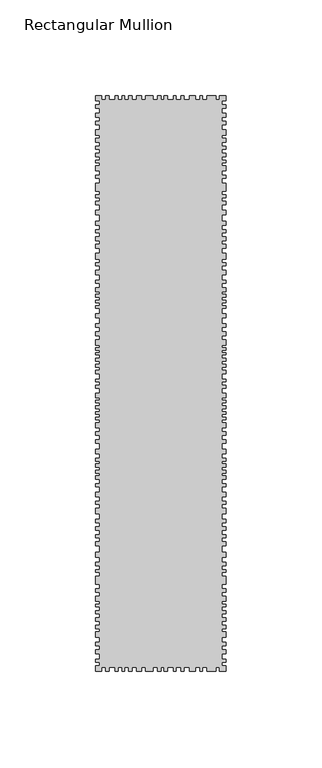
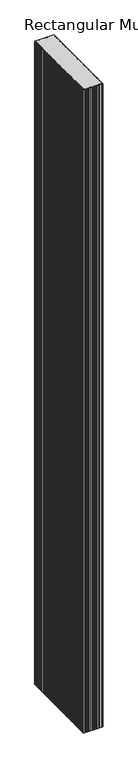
"""IFC4 building model written with IfcOpenShell, lengths in millimetres: member geometry, Rectangular Mullion : DucoSun Cubic Design louvre 300."""

from ifc_helpers import new_model, si_unit, frame, origin, place, context, project, spatial, polyline, outline, extrude, source, transform, mapped, element, save


def rectangular_mullion_a2c1e60b(model_context):
    return source(origin(), model_context, "Body", "SweptSolid", [
        extrude(outline(polyline([(34.0, 297.3782451), (32.0, 297.3782451), (32.0, 295.4241521), (34.0, 295.4241521), (34.0, 293.6532553), (32.0, 293.6532553), (32.0, 290.9460223), (34.0, 290.9460223), (34.0, 288.9105087), (32.0, 288.9105087), (32.0, 286.7121541), (34.0, 286.7121541), (34.0, 285.0023227), (32.0, 285.0023227), (32.0, 282.3561551), (34.0, 282.3561551), (34.0, 279.3843053), (32.0, 279.3843053), (32.0, 277.8917893), (34.0, 277.8917893), (34.0, 275.8425117), (32.0, 275.8425117), (32.0, 273.8680636), (34.0, 273.8680636), (34.0, 272.1582322), (32.0, 272.1582322), (32.0, 270.0820083), (34.0, 270.0820083), (34.0, 268.3111116), (32.0, 268.3111116), (32.0, 266.4995045), (34.0, 266.4995045), (34.0, 265.0713495), (32.0, 265.0713495), (32.0, 263.4577392), (34.0, 263.4577392), (34.0, 261.0328231), (32.0, 261.0328231), (32.0, 258.5725067), (34.0, 258.5725067), (34.0, 257.0325964), (32.0, 257.0325964), (32.0, 254.5014796), (34.0, 254.5014796), (34.0, 250.4127524), (32.0, 250.4127524), (32.0, 248.4126391), (34.0, 248.4126391), (34.0, 246.8373286), (32.0, 246.8373286), (32.0, 244.9965163), (34.0, 244.9965163), (34.0, 243.3504053), (32.0, 243.3504053), (32.0, 240.3767855), (34.0, 240.3767855), (34.0, 237.9545244), (32.0, 237.9545244), (32.0, 234.5552168), (34.0, 234.5552168), (34.0, 232.5197032), (32.0, 232.5197032), (32.0, 230.239928), (34.0, 230.239928), (34.0, 228.6929377), (32.0, 228.6929377), (32.0, 226.4335177), (34.0, 226.4335177), (34.0, 224.5608452), (32.0, 224.5608452), (32.0, 222.6271073), (34.0, 222.6271073), (34.0, 220.5508835), (32.0, 220.5508835), (32.0, 218.0064916), (34.0, 218.0064916), (34.0, 214.9328661), (32.0, 214.9328661), (32.0, 212.9177077), (34.0, 212.9177077), (34.0, 211.4114277), (32.0, 211.4114277), (32.0, 208.9688114), (34.0, 208.9688114), (34.0, 206.7118273), (32.0, 206.7118273), (32.0, 203.8852623), (34.0, 203.8852623), (34.0, 202.4316003), (32.0, 202.4316003), (32.0, 199.9011516), (34.0, 199.9011516), (34.0, 197.8552569), (32.0, 197.8552569), (32.0, 196.6169522), (34.0, 196.6169522), (34.0, 195.0825312), (32.0, 195.0825312), (32.0, 193.4673512), (34.0, 193.4673512), (34.0, 192.0675286), (32.0, 192.0675286), (32.0, 190.5869469), (34.0, 190.5869469), (34.0, 189.1602046), (32.0, 189.1602046), (32.0, 186.3310055), (34.0, 186.3310055), (34.0, 184.2608252), (32.0, 184.2608252), (32.0, 181.1919832), (34.0, 181.1919832), (34.0, 179.2537672), (32.0, 179.2537672), (32.0, 176.9360418), (34.0, 176.9360418), (34.0, 175.0004598), (32.0, 175.0004598), (32.0, 172.9007258), (34.0, 172.9007258), (34.0, 170.1010805), (32.0, 170.1010805), (32.0, 168.8089365), (34.0, 168.8089365), (34.0, 167.3014351), (32.0, 167.3014351), (32.0, 166.0362108), (34.0, 166.0362108), (34.0, 165.0401831), (32.0, 165.0401831), (32.0, 163.2096458), (34.0, 163.2096458), (34.0, 161.6483051), (32.0, 161.6483051), (32.0, 160.1408038), (34.0, 160.1408038), (34.0, 158.6063828), (32.0, 158.6063828), (32.0, 157.0719618), (34.0, 157.0719618), (34.0, 155.0799064), (32.0, 155.0799064), (32.0, 152.3762692), (34.0, 152.3762692), (34.0, 150.8903036), (32.0, 150.8903036), (32.0, 149.1257194), (34.0, 149.1257194), (34.0, 147.6087962), (32.0, 147.6087962), (32.0, 144.8535683), (34.0, 144.8535683), (34.0, 142.7484504), (32.0, 142.7484504), (32.0, 141.4172729), (34.0, 141.4172729), (34.0, 139.9622649), (32.0, 139.9622649), (32.0, 138.3524688), (34.0, 138.3524688), (34.0, 136.8355456), (32.0, 136.8355456), (32.0, 135.1947919), (34.0, 135.1947919), (34.0, 133.9255296), (32.0, 133.9255296), (32.0, 132.5014792), (34.0, 132.5014792), (34.0, 131.1083865), (32.0, 131.1083865), (32.0, 129.6843361), (34.0, 129.6843361), (34.0, 127.0529387), (32.0, 127.0529387), (32.0, 124.9787784), (34.0, 124.9787784), (34.0, 123.0284485), (32.0, 123.0284485), (32.0, 120.7995001), (34.0, 120.7995001), (34.0, 118.8182126), (32.0, 118.8182126), (32.0, 115.6914933), (34.0, 115.6914933), (34.0, 113.4935025), (32.0, 113.4935025), (32.0, 110.954978), (34.0, 110.954978), (34.0, 109.4070971), (32.0, 109.4070971), (32.0, 108.1378348), (34.0, 108.1378348), (34.0, 106.4970812), (32.0, 106.4970812), (32.0, 104.8253698), (34.0, 104.8253698), (34.0, 103.3394042), (32.0, 103.3394042), (32.0, 102.0391843), (34.0, 102.0391843), (34.0, 100.0578969), (32.0, 100.0578969), (32.0, 97.6741604), (34.0, 97.6741604), (34.0, 96.0953219), (32.0, 96.0953219), (32.0, 93.3091364), (34.0, 93.3091364), (34.0, 91.0182728), (32.0, 91.0182728), (32.0, 88.572621), (34.0, 88.572621), (34.0, 87.1485707), (32.0, 87.1485707), (32.0, 85.0124951), (34.0, 85.0124951), (34.0, 82.1643944), (32.0, 82.1643944), (32.0, 79.3782089), (34.0, 79.3782089), (34.0, 77.427879), (32.0, 77.427879), (32.0, 75.4156339), (34.0, 75.4156339), (34.0, 73.6510498), (32.0, 73.6510498), (32.0, 71.1744404), (34.0, 71.1744404), (34.0, 69.6884748), (32.0, 69.6884748), (32.0, 67.5523993), (34.0, 67.5523993), (34.0, 65.4163237), (32.0, 65.4163237), (32.0, 62.1967316), (34.0, 62.1967316), (34.0, 59.5343765), (32.0, 59.5343765), (32.0, 56.7791486), (34.0, 56.7791486), (34.0, 55.0764797), (32.0, 55.0764797), (32.0, 52.9404041), (34.0, 52.9404041), (34.0, 51.6092266), (32.0, 51.6092266), (32.0, 49.5660239), (34.0, 49.5660239), (34.0, 45.512038), (32.0, 45.512038), (32.0, 43.0030092), (34.0, 43.0030092), (34.0, 41.3312979), (32.0, 41.3312979), (32.0, 39.0404342), (34.0, 39.0404342), (34.0, 36.5638249), (32.0, 36.5638249), (32.0, 35.015944), (34.0, 35.015944), (34.0, 33.5609361), (32.0, 33.5609361), (32.0, 31.5796486), (34.0, 31.5796486), (34.0, 30.0627254), (32.0, 30.0627254), (32.0, 27.8337769), (34.0, 27.8337769), (34.0, 26.1620656), (32.0, 26.1620656), (32.0, 24.0259901), (34.0, 24.0259901), (34.0, 22.0756602), (32.0, 22.0756602), (32.0, 20.6516099), (34.0, 20.6516099), (34.0, 17.7415939), (32.0, 17.7415939), (32.0, 15.2030693), (34.0, 15.2030693), (34.0, 13.1908242), (32.0, 13.1908242), (32.0, 11.2404944), (34.0, 11.2404944), (34.0, 9.1353764), (32.0, 9.1353764), (32.0, 6.2563181), (34.0, 6.2563181), (34.0, 4.6155644), (32.0, 4.6155644), (32.0, 2.8509802), (34.0, 2.8509802), (34.0, 0.0), (30.4544414, 0.0), (30.4544414, 2.0), (28.627942, 2.0), (28.627942, 0.0), (23.9842994, 0.0), (23.9842994, 2.0), (21.8172663, 2.0), (21.8172663, 0.0), (20.3003431, 0.0), (20.3003431, 2.0), (17.9475642, 2.0), (17.9475642, 0.0), (14.8827601, 0.0), (14.8827601, 2.0), (12.0965746, 2.0), (12.0965746, 0.0), (10.3939057, 0.0), (10.3939057, 2.0), (8.0101692, 2.0), (8.0101692, 0.0), (6.5242036, 0.0), (6.5242036, 2.0), (3.4884678, 2.0), (3.4884678, 0.0), (1.7094289, 0.0), (1.7094289, 2.0), (0.0, 2.0), (0.0, 0.0), (-1.8486488, 0.0), (-1.8486488, 2.0), (-4.2128978, 2.0), (-4.2128978, 0.0), (-7.9816511, 0.0), (-7.9816511, 2.0), (-10.0415908, 2.0), (-10.0415908, 0.0), (-12.7335575, 0.0), (-12.7335575, 2.0), (-15.0041729, 2.0), (-15.0041729, 0.0), (-16.8768453, 0.0), (-16.8768453, 2.0), (-18.9367851, 2.0), (-18.9367851, 0.0), (-20.2710642, 0.0), (-20.2710642, 2.0), (-22.3075955, 2.0), (-22.3075955, 0.0), (-23.8993671, 0.0), (-23.8993671, 2.0), (-26.9658683, 2.0), (-26.9658683, 0.0), (-28.9321744, 0.0), (-28.9321744, 2.0), (-30.8750721, 2.0), (-30.8750721, 0.0), (-34.0, 0.0), (-34.0, 2.8509802), (-32.0, 2.8509802), (-32.0, 4.6155644), (-34.0, 4.6155644), (-34.0, 6.2563181), (-32.0, 6.2563181), (-32.0, 9.1353764), (-34.0, 9.1353764), (-34.0, 11.2404944), (-32.0, 11.2404944), (-32.0, 13.1908242), (-34.0, 13.1908242), (-34.0, 15.2030693), (-32.0, 15.2030693), (-32.0, 17.7415939), (-34.0, 17.7415939), (-34.0, 20.6516099), (-32.0, 20.6516099), (-32.0, 22.0756602), (-34.0, 22.0756602), (-34.0, 24.0259901), (-32.0, 24.0259901), (-32.0, 26.1620656), (-34.0, 26.1620656), (-34.0, 27.8337769), (-32.0, 27.8337769), (-32.0, 30.0627254), (-34.0, 30.0627254), (-34.0, 31.5796486), (-32.0, 31.5796486), (-32.0, 33.5609361), (-34.0, 33.5609361), (-34.0, 35.015944), (-32.0, 35.015944), (-32.0, 36.5638249), (-34.0, 36.5638249), (-34.0, 39.0404342), (-32.0, 39.0404342), (-32.0, 41.3312979), (-34.0, 41.3312979), (-34.0, 43.0030092), (-32.0, 43.0030092), (-32.0, 45.512038), (-34.0, 45.512038), (-34.0, 49.5660239), (-32.0, 49.5660239), (-32.0, 51.6092266), (-34.0, 51.6092266), (-34.0, 52.9404041), (-32.0, 52.9404041), (-32.0, 55.0764797), (-34.0, 55.0764797), (-34.0, 56.7791486), (-32.0, 56.7791486), (-32.0, 59.5343765), (-34.0, 59.5343765), (-34.0, 62.1967316), (-32.0, 62.1967316), (-32.0, 65.4163237), (-34.0, 65.4163237), (-34.0, 67.5523993), (-32.0, 67.5523993), (-32.0, 69.6884748), (-34.0, 69.6884748), (-34.0, 71.1744404), (-32.0, 71.1744404), (-32.0, 73.6510498), (-34.0, 73.6510498), (-34.0, 75.4156339), (-32.0, 75.4156339), (-32.0, 77.427879), (-34.0, 77.427879), (-34.0, 79.3782089), (-32.0, 79.3782089), (-32.0, 82.1643944), (-34.0, 82.1643944), (-34.0, 85.0124951), (-32.0, 85.0124951), (-32.0, 87.1485707), (-34.0, 87.1485707), (-34.0, 88.572621), (-32.0, 88.572621), (-32.0, 91.0182728), (-34.0, 91.0182728), (-34.0, 93.3091364), (-32.0, 93.3091364), (-32.0, 96.0953219), (-34.0, 96.0953219), (-34.0, 97.6741604), (-32.0, 97.6741604), (-32.0, 100.0578969), (-34.0, 100.0578969), (-34.0, 102.0391843), (-32.0, 102.0391843), (-32.0, 103.3394042), (-34.0, 103.3394042), (-34.0, 104.8253698), (-32.0, 104.8253698), (-32.0, 106.4970812), (-34.0, 106.4970812), (-34.0, 108.1378348), (-32.0, 108.1378348), (-32.0, 109.4070971), (-34.0, 109.4070971), (-34.0, 110.954978), (-32.0, 110.954978), (-32.0, 113.4935025), (-34.0, 113.4935025), (-34.0, 115.6914933), (-32.0, 115.6914933), (-32.0, 118.8182126), (-34.0, 118.8182126), (-34.0, 120.7995001), (-32.0, 120.7995001), (-32.0, 123.0284485), (-34.0, 123.0284485), (-34.0, 124.9787784), (-32.0, 124.9787784), (-32.0, 127.0529387), (-34.0, 127.0529387), (-34.0, 129.6843361), (-32.0, 129.6843361), (-32.0, 131.1083865), (-34.0, 131.1083865), (-34.0, 132.5014792), (-32.0, 132.5014792), (-32.0, 133.9255296), (-34.0, 133.9255296), (-34.0, 135.1947919), (-32.0, 135.1947919), (-32.0, 136.8355456), (-34.0, 136.8355456), (-34.0, 138.3524688), (-32.0, 138.3524688), (-32.0, 139.9622649), (-34.0, 139.9622649), (-34.0, 141.4172729), (-32.0, 141.4172729), (-32.0, 142.7484504), (-34.0, 142.7484504), (-34.0, 144.8535683), (-32.0, 144.8535683), (-32.0, 147.6087962), (-34.0, 147.6087962), (-34.0, 149.1257194), (-32.0, 149.1257194), (-32.0, 150.8903036), (-34.0, 150.8903036), (-34.0, 152.3762692), (-32.0, 152.3762692), (-32.0, 155.0799064), (-34.0, 155.0799064), (-34.0, 157.0719618), (-32.0, 157.0719618), (-32.0, 158.6063828), (-34.0, 158.6063828), (-34.0, 160.1408038), (-32.0, 160.1408038), (-32.0, 161.6483051), (-34.0, 161.6483051), (-34.0, 163.2096458), (-32.0, 163.2096458), (-32.0, 165.0401831), (-34.0, 165.0401831), (-34.0, 166.0362108), (-32.0, 166.0362108), (-32.0, 167.3014351), (-34.0, 167.3014351), (-34.0, 168.8089365), (-32.0, 168.8089365), (-32.0, 170.1010805), (-34.0, 170.1010805), (-34.0, 172.9007258), (-32.0, 172.9007258), (-32.0, 175.0004598), (-34.0, 175.0004598), (-34.0, 176.9360418), (-32.0, 176.9360418), (-32.0, 179.2537672), (-34.0, 179.2537672), (-34.0, 181.1919832), (-32.0, 181.1919832), (-32.0, 184.2608252), (-34.0, 184.2608252), (-34.0, 186.3310055), (-32.0, 186.3310055), (-32.0, 189.1602046), (-34.0, 189.1602046), (-34.0, 190.5869469), (-32.0, 190.5869469), (-32.0, 192.0675286), (-34.0, 192.0675286), (-34.0, 193.4673512), (-32.0, 193.4673512), (-32.0, 195.0825312), (-34.0, 195.0825312), (-34.0, 196.6169522), (-32.0, 196.6169522), (-32.0, 197.8552569), (-34.0, 197.8552569), (-34.0, 199.9011516), (-32.0, 199.9011516), (-32.0, 202.4316003), (-34.0, 202.4316003), (-34.0, 203.8852623), (-32.0, 203.8852623), (-32.0, 206.7118273), (-34.0, 206.7118273), (-34.0, 208.9688114), (-32.0, 208.9688114), (-32.0, 211.4114277), (-34.0, 211.4114277), (-34.0, 212.9177077), (-32.0, 212.9177077), (-32.0, 214.9328661), (-34.0, 214.9328661), (-34.0, 218.0064916), (-32.0, 218.0064916), (-32.0, 220.5508835), (-34.0, 220.5508835), (-34.0, 222.6271073), (-32.0, 222.6271073), (-32.0, 224.5608452), (-34.0, 224.5608452), (-34.0, 226.4335177), (-32.0, 226.4335177), (-32.0, 228.6929377), (-34.0, 228.6929377), (-34.0, 230.239928), (-32.0, 230.239928), (-32.0, 232.5197032), (-34.0, 232.5197032), (-34.0, 234.5552168), (-32.0, 234.5552168), (-32.0, 237.9545244), (-34.0, 237.9545244), (-34.0, 240.3767855), (-32.0, 240.3767855), (-32.0, 243.3504053), (-34.0, 243.3504053), (-34.0, 244.9965163), (-32.0, 244.9965163), (-32.0, 246.8373286), (-34.0, 246.8373286), (-34.0, 248.4126391), (-32.0, 248.4126391), (-32.0, 250.4127524), (-34.0, 250.4127524), (-34.0, 254.5014796), (-32.0, 254.5014796), (-32.0, 257.0325964), (-34.0, 257.0325964), (-34.0, 258.5725067), (-32.0, 258.5725067), (-32.0, 261.0328231), (-34.0, 261.0328231), (-34.0, 263.4577392), (-32.0, 263.4577392), (-32.0, 265.0713495), (-34.0, 265.0713495), (-34.0, 266.4995045), (-32.0, 266.4995045), (-32.0, 268.3111116), (-34.0, 268.3111116), (-34.0, 270.0820083), (-32.0, 270.0820083), (-32.0, 272.1582322), (-34.0, 272.1582322), (-34.0, 273.8680636), (-32.0, 273.8680636), (-32.0, 275.8425117), (-34.0, 275.8425117), (-34.0, 277.8917893), (-32.0, 277.8917893), (-32.0, 279.3843053), (-34.0, 279.3843053), (-34.0, 282.3561551), (-32.0, 282.3561551), (-32.0, 285.0023227), (-34.0, 285.0023227), (-34.0, 286.7121541), (-32.0, 286.7121541), (-32.0, 288.9105087), (-34.0, 288.9105087), (-34.0, 290.9460223), (-32.0, 290.9460223), (-32.0, 293.6532553), (-34.0, 293.6532553), (-34.0, 295.4241521), (-32.0, 295.4241521), (-32.0, 297.3782451), (-34.0, 297.3782451), (-34.0, 300.0), (-30.8750721, 300.0), (-30.8750721, 298.0), (-28.9321744, 298.0), (-28.9321744, 300.0), (-26.9658683, 300.0), (-26.9658683, 298.0), (-23.8993671, 298.0), (-23.8993671, 300.0), (-22.3075955, 300.0), (-22.3075955, 298.0), (-20.2710642, 298.0), (-20.2710642, 300.0), (-18.9367851, 300.0), (-18.9367851, 298.0), (-16.8768453, 298.0), (-16.8768453, 300.0), (-15.0041729, 300.0), (-15.0041729, 298.0), (-12.7335575, 298.0), (-12.7335575, 300.0), (-10.0415908, 300.0), (-10.0415908, 298.0), (-7.9816511, 298.0), (-7.9816511, 300.0), (-4.2128978, 300.0), (-4.2128978, 298.0), (-1.8486488, 298.0), (-1.8486488, 300.0), (0.0, 300.0), (0.0, 298.0), (1.7094289, 298.0), (1.7094289, 300.0), (3.4884678, 300.0), (3.4884678, 298.0), (6.5242036, 298.0), (6.5242036, 300.0), (8.0101692, 300.0), (8.0101692, 298.0), (10.3939057, 298.0), (10.3939057, 300.0), (12.0965746, 300.0), (12.0965746, 298.0), (14.8827601, 298.0), (14.8827601, 300.0), (17.9475642, 300.0), (17.9475642, 298.0), (20.3003431, 298.0), (20.3003431, 300.0), (21.8172663, 300.0), (21.8172663, 298.0), (23.9842994, 298.0), (23.9842994, 300.0), (28.627942, 300.0), (28.627942, 298.0), (30.4544414, 298.0), (30.4544414, 300.0), (34.0, 300.0), (34.0, 297.3782451)])), frame((0.0, 0.0, -2400.0), z_axis=(0.0, 0.0, 1.0), x_axis=(1.0, 0.0, 0.0)), (0.0, 0.0, 1.0), 2400.0),
    ])


if __name__ == "__main__":
    model = new_model("IFC4")
    model_context = context("Model", 3, world=origin())
    ifc_project = project(units=[si_unit("LENGTHUNIT", "METRE", prefix="MILLI")], contexts=[model_context])
    site = spatial("IfcSite", under=ifc_project)
    building = spatial("IfcBuilding", under=site)
    placement = place(None, origin())
    rectangular_mullion_shape = rectangular_mullion_a2c1e60b(model_context)
    element("IfcMember", 1, ObjectType="Rectangular Mullion : DucoSun Cubic Design louvre 300", at=placement, inside=building, context=model_context, shape_type="MappedRepresentation", body=[
        mapped(rectangular_mullion_shape, transform((0.0, 0.0, 0.0), x_axis=(1.0, 0.0, 0.0), y_axis=(0.0, 1.0, 0.0), z_axis=(0.0, 0.0, 1.0))),
    ])
    save(model, "model.ifc")
